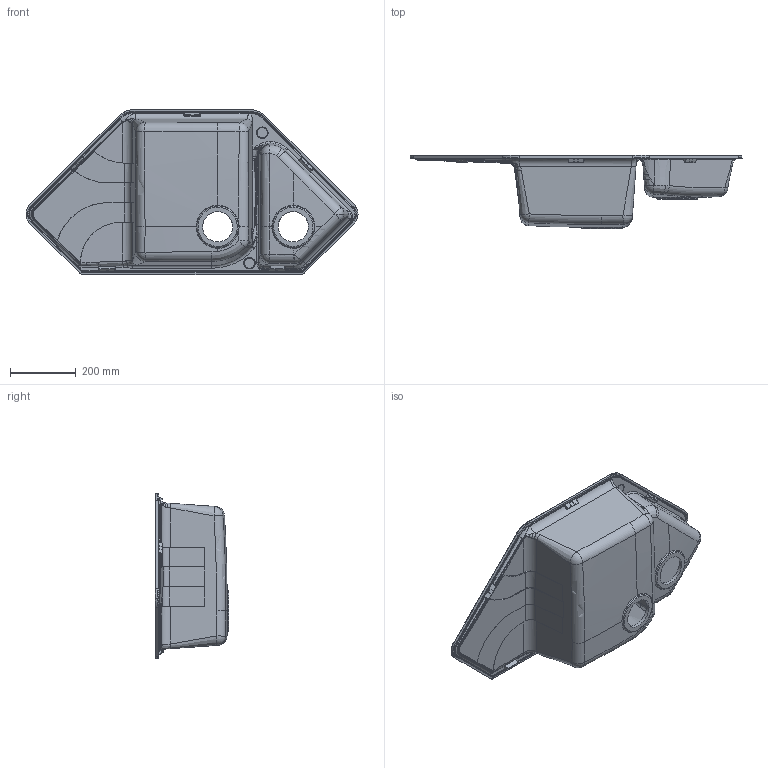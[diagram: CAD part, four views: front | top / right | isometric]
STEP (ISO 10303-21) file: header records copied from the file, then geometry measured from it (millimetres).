
FILE_DESCRIPTION(('CATIA V5 STEP Exchange'),'2;1');
FILE_NAME('M:\DISEGNI\LAVELLI\Pietra\Parti\PTAN2EXP.stp','2019-05-20T14:14:01+00:00',('none'),('none'),'CATIA Version 5-6 Release 2014','CATIA V5 STEP AP203','none');
FILE_SCHEMA(('CONFIG_CONTROL_DESIGN'));
Products named in the file (1): PTAN2EXP
Bounding box: 1009.09 x 223.63 x 501.56 mm (x, y, z)
Volume: 6560956.7 mm3; surface area: 1488067.3 mm2
Topology: 1 solids, 1 shells, 867 faces, 2826 edges, 1887 vertices
Faces by surface type: bspline 405, cylinder 208, plane 93, sphere 86, torus 61, cone 14
Entity records: 45422 total; most frequent: CARTESIAN_POINT 27218, ORIENTED_EDGE 5496, EDGE_CURVE 2748, VERTEX_POINT 1887, DIRECTION 1711, B_SPLINE_CURVE_WITH_KNOTS 1166, EDGE_LOOP 877, ADVANCED_FACE 867
